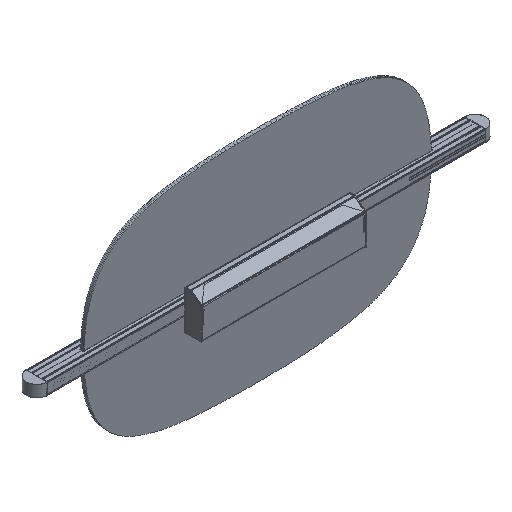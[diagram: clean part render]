
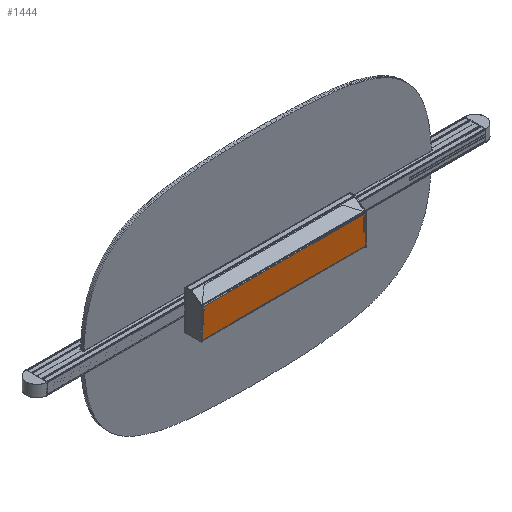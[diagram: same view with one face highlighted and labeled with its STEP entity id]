
A CAD part, isometric view. The second image highlights one B-rep face of the part: STEP entity #1444.
In plain terms, the highlighted planar face has unit normal (0, -1, 0).
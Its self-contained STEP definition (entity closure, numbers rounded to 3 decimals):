
#1444=ADVANCED_FACE('',(#2476),#18030,.T.);
#2476=FACE_OUTER_BOUND('',#3510,.T.);
#3510=EDGE_LOOP('',(#7486,#7487,#7488,#7489,#7490,#7491,#7492,#7493,#7494,
#7495,#7496,#7497,#7498,#7499,#7500,#7501,#7502,#7503,#7504,#7505));
#7486=ORIENTED_EDGE('',*,*,#11747,.F.);
#7487=ORIENTED_EDGE('',*,*,#11757,.T.);
#7488=ORIENTED_EDGE('',*,*,#11758,.T.);
#7489=ORIENTED_EDGE('',*,*,#11642,.F.);
#7490=ORIENTED_EDGE('',*,*,#11759,.T.);
#7491=ORIENTED_EDGE('',*,*,#11760,.T.);
#7492=ORIENTED_EDGE('',*,*,#11761,.T.);
#7493=ORIENTED_EDGE('',*,*,#11762,.T.);
#7494=ORIENTED_EDGE('',*,*,#11763,.T.);
#7495=ORIENTED_EDGE('',*,*,#11764,.T.);
#7496=ORIENTED_EDGE('',*,*,#11765,.T.);
#7497=ORIENTED_EDGE('',*,*,#11766,.T.);
#7498=ORIENTED_EDGE('',*,*,#11767,.T.);
#7499=ORIENTED_EDGE('',*,*,#11768,.T.);
#7500=ORIENTED_EDGE('',*,*,#11751,.F.);
#7501=ORIENTED_EDGE('',*,*,#11756,.F.);
#7502=ORIENTED_EDGE('',*,*,#11754,.F.);
#7503=ORIENTED_EDGE('',*,*,#11738,.F.);
#7504=ORIENTED_EDGE('',*,*,#11746,.F.);
#7505=ORIENTED_EDGE('',*,*,#11750,.F.);
#11642=EDGE_CURVE('',#16607,#16608,#14588,.T.);
#11738=EDGE_CURVE('',#16678,#16679,#14663,.T.);
#11746=EDGE_CURVE('',#16680,#16678,#14668,.T.);
#11747=EDGE_CURVE('',#16681,#16682,#14669,.T.);
#11750=EDGE_CURVE('',#16682,#16680,#14672,.T.);
#11751=EDGE_CURVE('',#16683,#16684,#14673,.T.);
#11754=EDGE_CURVE('',#16679,#16685,#14676,.T.);
#11756=EDGE_CURVE('',#16685,#16683,#14678,.T.);
#11757=EDGE_CURVE('',#16681,#16686,#14679,.T.);
#11758=EDGE_CURVE('',#16686,#16608,#14680,.T.);
#11759=EDGE_CURVE('',#16607,#16687,#14681,.T.);
#11760=EDGE_CURVE('',#16687,#16688,#14682,.T.);
#11761=EDGE_CURVE('',#16688,#16689,#14683,.T.);
#11762=EDGE_CURVE('',#16689,#16690,#14684,.T.);
#11763=EDGE_CURVE('',#16690,#16691,#14685,.T.);
#11764=EDGE_CURVE('',#16691,#16692,#14686,.T.);
#11765=EDGE_CURVE('',#16692,#16693,#14687,.T.);
#11766=EDGE_CURVE('',#16693,#16694,#14688,.T.);
#11767=EDGE_CURVE('',#16694,#16695,#14689,.T.);
#11768=EDGE_CURVE('',#16695,#16684,#14690,.T.);
#14588=B_SPLINE_CURVE_WITH_KNOTS('',1,(#27443,#27444),.UNSPECIFIED.,.F.,
 .F.,(2,2),(0.,6.5),.UNSPECIFIED.);
#14663=B_SPLINE_CURVE_WITH_KNOTS('',1,(#27670,#27671),.UNSPECIFIED.,.F.,
 .F.,(2,2),(0.,27.5),.UNSPECIFIED.);
#14668=B_SPLINE_CURVE_WITH_KNOTS('',1,(#27689,#27690),.UNSPECIFIED.,.F.,
 .F.,(2,2),(0.,0.75),.UNSPECIFIED.);
#14669=B_SPLINE_CURVE_WITH_KNOTS('',1,(#27691,#27692),.UNSPECIFIED.,.F.,
 .F.,(2,2),(0.,3.75),.UNSPECIFIED.);
#14672=B_SPLINE_CURVE_WITH_KNOTS('',1,(#27697,#27698),.UNSPECIFIED.,.F.,
 .F.,(2,2),(0.,1.5),.UNSPECIFIED.);
#14673=B_SPLINE_CURVE_WITH_KNOTS('',1,(#27699,#27700),.UNSPECIFIED.,.F.,
 .F.,(2,2),(0.,3.75),.UNSPECIFIED.);
#14676=B_SPLINE_CURVE_WITH_KNOTS('',1,(#27705,#27706),.UNSPECIFIED.,.F.,
 .F.,(2,2),(0.,0.75),.UNSPECIFIED.);
#14678=B_SPLINE_CURVE_WITH_KNOTS('',1,(#27709,#27710),.UNSPECIFIED.,.F.,
 .F.,(2,2),(0.,1.5),.UNSPECIFIED.);
#14679=B_SPLINE_CURVE_WITH_KNOTS('',1,(#27711,#27712),.UNSPECIFIED.,.F.,
 .F.,(2,2),(0.,6.5),.UNSPECIFIED.);
#14680=B_SPLINE_CURVE_WITH_KNOTS('',1,(#27713,#27714),.UNSPECIFIED.,.F.,
 .F.,(2,2),(0.,375.),.UNSPECIFIED.);
#14681=B_SPLINE_CURVE_WITH_KNOTS('',1,(#27715,#27716),.UNSPECIFIED.,.F.,
 .F.,(2,2),(0.,3.75),.UNSPECIFIED.);
#14682=B_SPLINE_CURVE_WITH_KNOTS('',1,(#27717,#27718),.UNSPECIFIED.,.F.,
 .F.,(2,2),(0.,1.5),.UNSPECIFIED.);
#14683=B_SPLINE_CURVE_WITH_KNOTS('',1,(#27719,#27720),.UNSPECIFIED.,.F.,
 .F.,(2,2),(0.,0.75),.UNSPECIFIED.);
#14684=B_SPLINE_CURVE_WITH_KNOTS('',1,(#27721,#27722),.UNSPECIFIED.,.F.,
 .F.,(2,2),(0.,27.5),.UNSPECIFIED.);
#14685=B_SPLINE_CURVE_WITH_KNOTS('',1,(#27723,#27724),.UNSPECIFIED.,.F.,
 .F.,(2,2),(0.,0.75),.UNSPECIFIED.);
#14686=B_SPLINE_CURVE_WITH_KNOTS('',1,(#27725,#27726),.UNSPECIFIED.,.F.,
 .F.,(2,2),(0.,1.5),.UNSPECIFIED.);
#14687=B_SPLINE_CURVE_WITH_KNOTS('',1,(#27727,#27728),.UNSPECIFIED.,.F.,
 .F.,(2,2),(0.,3.75),.UNSPECIFIED.);
#14688=B_SPLINE_CURVE_WITH_KNOTS('',1,(#27729,#27730),.UNSPECIFIED.,.F.,
 .F.,(2,2),(0.,28.5),.UNSPECIFIED.);
#14689=B_SPLINE_CURVE_WITH_KNOTS('',1,(#27731,#27732),.UNSPECIFIED.,.F.,
 .F.,(2,2),(0.,375.),.UNSPECIFIED.);
#14690=B_SPLINE_CURVE_WITH_KNOTS('',1,(#27733,#27734),.UNSPECIFIED.,.F.,
 .F.,(2,2),(0.,28.5),.UNSPECIFIED.);
#16607=VERTEX_POINT('',#27320);
#16608=VERTEX_POINT('',#27321);
#16678=VERTEX_POINT('',#27391);
#16679=VERTEX_POINT('',#27392);
#16680=VERTEX_POINT('',#27393);
#16681=VERTEX_POINT('',#27394);
#16682=VERTEX_POINT('',#27395);
#16683=VERTEX_POINT('',#27396);
#16684=VERTEX_POINT('',#27397);
#16685=VERTEX_POINT('',#27398);
#16686=VERTEX_POINT('',#27399);
#16687=VERTEX_POINT('',#27400);
#16688=VERTEX_POINT('',#27401);
#16689=VERTEX_POINT('',#27402);
#16690=VERTEX_POINT('',#27403);
#16691=VERTEX_POINT('',#27404);
#16692=VERTEX_POINT('',#27405);
#16693=VERTEX_POINT('',#27406);
#16694=VERTEX_POINT('',#27407);
#16695=VERTEX_POINT('',#27408);
#18030=PLANE('',#19204);
#19204=AXIS2_PLACEMENT_3D('',#27285,#20222,$);
#20222=DIRECTION('',(0.,-1.,0.));
#27285=CARTESIAN_POINT('',(-225.021,-63.7,30.062));
#27320=CARTESIAN_POINT('',(-187.509,-63.7,17.));
#27321=CARTESIAN_POINT('',(-187.509,-63.7,23.5));
#27391=CARTESIAN_POINT('',(184.491,-63.7,15.5));
#27392=CARTESIAN_POINT('',(184.491,-63.7,-12.));
#27393=CARTESIAN_POINT('',(183.741,-63.7,15.5));
#27394=CARTESIAN_POINT('',(187.491,-63.7,17.));
#27395=CARTESIAN_POINT('',(183.741,-63.7,17.));
#27396=CARTESIAN_POINT('',(183.741,-63.7,-13.5));
#27397=CARTESIAN_POINT('',(187.491,-63.7,-13.5));
#27398=CARTESIAN_POINT('',(183.741,-63.7,-12.));
#27399=CARTESIAN_POINT('',(187.491,-63.7,23.5));
#27400=CARTESIAN_POINT('',(-183.759,-63.7,17.));
#27401=CARTESIAN_POINT('',(-183.759,-63.7,15.5));
#27402=CARTESIAN_POINT('',(-184.509,-63.7,15.5));
#27403=CARTESIAN_POINT('',(-184.509,-63.7,-12.));
#27404=CARTESIAN_POINT('',(-183.759,-63.7,-12.));
#27405=CARTESIAN_POINT('',(-183.759,-63.7,-13.5));
#27406=CARTESIAN_POINT('',(-187.509,-63.7,-13.5));
#27407=CARTESIAN_POINT('',(-187.509,-63.7,-42.));
#27408=CARTESIAN_POINT('',(187.491,-63.7,-42.));
#27443=CARTESIAN_POINT('',(-187.509,-63.7,17.));
#27444=CARTESIAN_POINT('',(-187.509,-63.7,23.5));
#27670=CARTESIAN_POINT('',(184.491,-63.7,15.5));
#27671=CARTESIAN_POINT('',(184.491,-63.7,-12.));
#27689=CARTESIAN_POINT('',(183.741,-63.7,15.5));
#27690=CARTESIAN_POINT('',(184.491,-63.7,15.5));
#27691=CARTESIAN_POINT('',(187.491,-63.7,17.));
#27692=CARTESIAN_POINT('',(183.741,-63.7,17.));
#27697=CARTESIAN_POINT('',(183.741,-63.7,17.));
#27698=CARTESIAN_POINT('',(183.741,-63.7,15.5));
#27699=CARTESIAN_POINT('',(183.741,-63.7,-13.5));
#27700=CARTESIAN_POINT('',(187.491,-63.7,-13.5));
#27705=CARTESIAN_POINT('',(184.491,-63.7,-12.));
#27706=CARTESIAN_POINT('',(183.741,-63.7,-12.));
#27709=CARTESIAN_POINT('',(183.741,-63.7,-12.));
#27710=CARTESIAN_POINT('',(183.741,-63.7,-13.5));
#27711=CARTESIAN_POINT('',(187.491,-63.7,17.));
#27712=CARTESIAN_POINT('',(187.491,-63.7,23.5));
#27713=CARTESIAN_POINT('',(187.491,-63.7,23.5));
#27714=CARTESIAN_POINT('',(-187.509,-63.7,23.5));
#27715=CARTESIAN_POINT('',(-187.509,-63.7,17.));
#27716=CARTESIAN_POINT('',(-183.759,-63.7,17.));
#27717=CARTESIAN_POINT('',(-183.759,-63.7,17.));
#27718=CARTESIAN_POINT('',(-183.759,-63.7,15.5));
#27719=CARTESIAN_POINT('',(-183.759,-63.7,15.5));
#27720=CARTESIAN_POINT('',(-184.509,-63.7,15.5));
#27721=CARTESIAN_POINT('',(-184.509,-63.7,15.5));
#27722=CARTESIAN_POINT('',(-184.509,-63.7,-12.));
#27723=CARTESIAN_POINT('',(-184.509,-63.7,-12.));
#27724=CARTESIAN_POINT('',(-183.759,-63.7,-12.));
#27725=CARTESIAN_POINT('',(-183.759,-63.7,-12.));
#27726=CARTESIAN_POINT('',(-183.759,-63.7,-13.5));
#27727=CARTESIAN_POINT('',(-183.759,-63.7,-13.5));
#27728=CARTESIAN_POINT('',(-187.509,-63.7,-13.5));
#27729=CARTESIAN_POINT('',(-187.509,-63.7,-13.5));
#27730=CARTESIAN_POINT('',(-187.509,-63.7,-42.));
#27731=CARTESIAN_POINT('',(-187.509,-63.7,-42.));
#27732=CARTESIAN_POINT('',(187.491,-63.7,-42.));
#27733=CARTESIAN_POINT('',(187.491,-63.7,-42.));
#27734=CARTESIAN_POINT('',(187.491,-63.7,-13.5));
